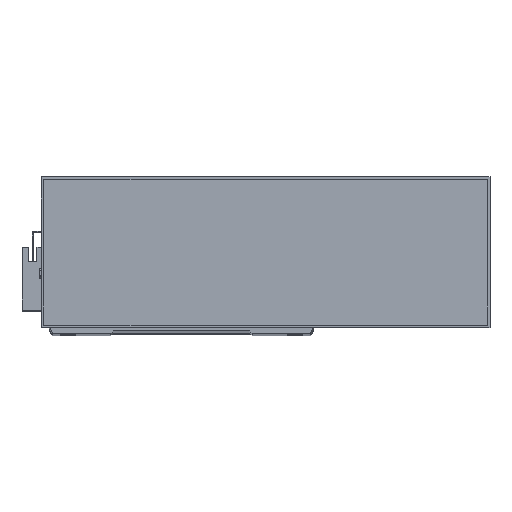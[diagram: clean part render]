
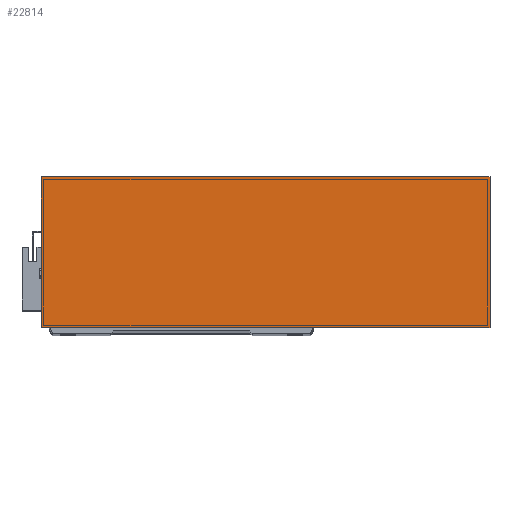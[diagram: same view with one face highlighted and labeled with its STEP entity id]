
A CAD part, top view. The second image highlights one B-rep face of the part: STEP entity #22814.
In plain terms, the highlighted planar face has unit normal (0, 0, 1).
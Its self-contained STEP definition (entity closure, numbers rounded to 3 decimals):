
#1140 = EDGE_CURVE ( 'NONE', #10534, #22661, #19542, .T. ) ;
#2900 = CARTESIAN_POINT ( 'NONE',  ( 0., 93., 50. ) ) ;
#3439 = DIRECTION ( 'NONE',  ( 1., 0., 0. ) ) ;
#5258 = CARTESIAN_POINT ( 'NONE',  ( 277., 0., 50. ) ) ;
#8459 = ORIENTED_EDGE ( 'NONE', *, *, #9175, .T. ) ;
#9175 = EDGE_CURVE ( 'NONE', #25611, #16932, #21949, .T. ) ;
#9613 = LINE ( 'NONE', #13019, #20609 ) ;
#10140 = DIRECTION ( 'NONE',  ( 0., 0., -1. ) ) ;
#10534 = VERTEX_POINT ( 'NONE', #15895 ) ;
#10927 = VECTOR ( 'NONE', #3439, 1000. ) ;
#13019 = CARTESIAN_POINT ( 'NONE',  ( 277., 0., 50. ) ) ;
#13652 = DIRECTION ( 'NONE',  ( 0., -1., 0. ) ) ;
#13873 = VECTOR ( 'NONE', #13652, 1000. ) ;
#14461 = PLANE ( 'NONE',  #20354 ) ;
#15713 = FACE_OUTER_BOUND ( 'NONE', #24452, .T. ) ;
#15895 = CARTESIAN_POINT ( 'NONE',  ( 277., 93., 50. ) ) ;
#16932 = VERTEX_POINT ( 'NONE', #5258 ) ;
#17658 = CARTESIAN_POINT ( 'NONE',  ( 0., 0., 50. ) ) ;
#18240 = CARTESIAN_POINT ( 'NONE',  ( 0., 93., 50. ) ) ;
#18820 = CARTESIAN_POINT ( 'NONE',  ( 0., 0., 50. ) ) ;
#19246 = DIRECTION ( 'NONE',  ( -1., 0., 0. ) ) ;
#19542 = LINE ( 'NONE', #18240, #25367 ) ;
#20303 = CARTESIAN_POINT ( 'NONE',  ( 0., 0., 50. ) ) ;
#20354 = AXIS2_PLACEMENT_3D ( 'NONE', #23320, #10140, #25509 ) ;
#20416 = ORIENTED_EDGE ( 'NONE', *, *, #25115, .T. ) ;
#20609 = VECTOR ( 'NONE', #21761, 1000. ) ;
#21167 = EDGE_CURVE ( 'NONE', #16932, #10534, #9613, .T. ) ;
#21761 = DIRECTION ( 'NONE',  ( 0., 1., 0. ) ) ;
#21898 = ORIENTED_EDGE ( 'NONE', *, *, #21167, .T. ) ;
#21949 = LINE ( 'NONE', #18820, #10927 ) ;
#22661 = VERTEX_POINT ( 'NONE', #2900 ) ;
#22814 = ADVANCED_FACE ( 'NONE', ( #15713 ), #14461, .F. ) ;
#23320 = CARTESIAN_POINT ( 'NONE',  ( 0., 0., 50. ) ) ;
#24452 = EDGE_LOOP ( 'NONE', ( #20416, #8459, #21898, #25944 ) ) ;
#25115 = EDGE_CURVE ( 'NONE', #22661, #25611, #25588, .T. ) ;
#25367 = VECTOR ( 'NONE', #19246, 1000. ) ;
#25509 = DIRECTION ( 'NONE',  ( -1., 0., 0. ) ) ;
#25588 = LINE ( 'NONE', #20303, #13873 ) ;
#25611 = VERTEX_POINT ( 'NONE', #17658 ) ;
#25944 = ORIENTED_EDGE ( 'NONE', *, *, #1140, .T. ) ;
